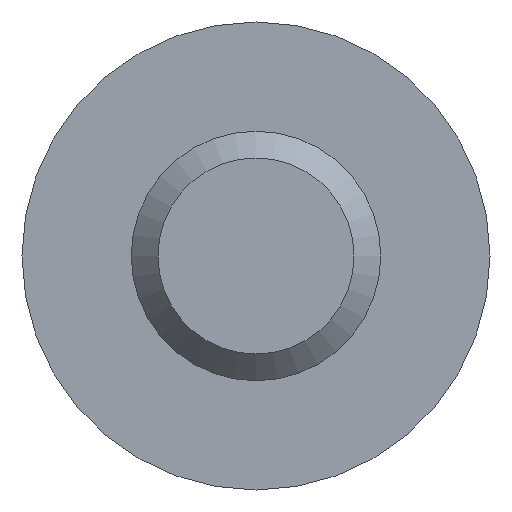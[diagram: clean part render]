
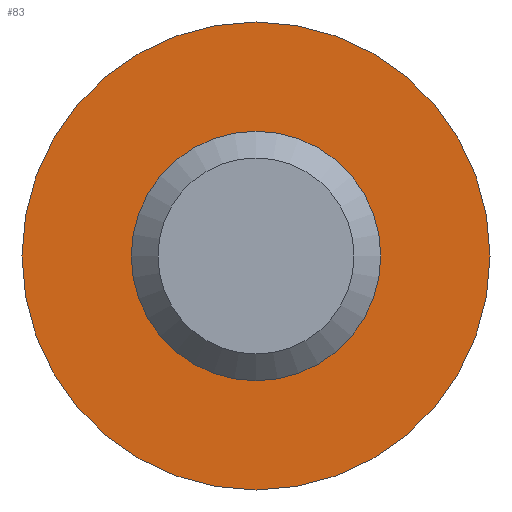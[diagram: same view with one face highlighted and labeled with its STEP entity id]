
A CAD part, front view. The second image highlights one B-rep face of the part: STEP entity #83.
In plain terms, the highlighted planar face has unit normal (0, -1, 0).
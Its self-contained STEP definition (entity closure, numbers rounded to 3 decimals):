
#83 = ADVANCED_FACE( '', ( #120, #121 ), #122, .F. );
#120 = FACE_BOUND( '', #178, .T. );
#121 = FACE_OUTER_BOUND( '', #179, .T. );
#122 = PLANE( '', #180 );
#178 = EDGE_LOOP( '', ( #263 ) );
#179 = EDGE_LOOP( '', ( #264 ) );
#180 = AXIS2_PLACEMENT_3D( '', #265, #266, #267 );
#263 = ORIENTED_EDGE( '', *, *, #363, .F. );
#264 = ORIENTED_EDGE( '', *, *, #364, .T. );
#265 = CARTESIAN_POINT( '', ( 3.75, 0., 0. ) );
#266 = DIRECTION( '', ( 0., 1., 0. ) );
#267 = DIRECTION( '', ( 0., 0., 1. ) );
#363 = EDGE_CURVE( '', #412, #412, #413, .F. );
#364 = EDGE_CURVE( '', #414, #414, #415, .T. );
#412 = VERTEX_POINT( '', #481 );
#413 = CIRCLE( '', #482, 2. );
#414 = VERTEX_POINT( '', #483 );
#415 = CIRCLE( '', #484, 3.75 );
#481 = CARTESIAN_POINT( '', ( 0., 0., 2. ) );
#482 = AXIS2_PLACEMENT_3D( '', #545, #546, #547 );
#483 = CARTESIAN_POINT( '', ( 0., 0., -3.75 ) );
#484 = AXIS2_PLACEMENT_3D( '', #548, #549, #550 );
#545 = CARTESIAN_POINT( '', ( 0., 0., 0. ) );
#546 = DIRECTION( '', ( 0., 1., 0. ) );
#547 = DIRECTION( '', ( 0., 0., 1. ) );
#548 = CARTESIAN_POINT( '', ( 0., 0., 0. ) );
#549 = DIRECTION( '', ( 0., -1., 0. ) );
#550 = DIRECTION( '', ( 0., 0., -1. ) );
